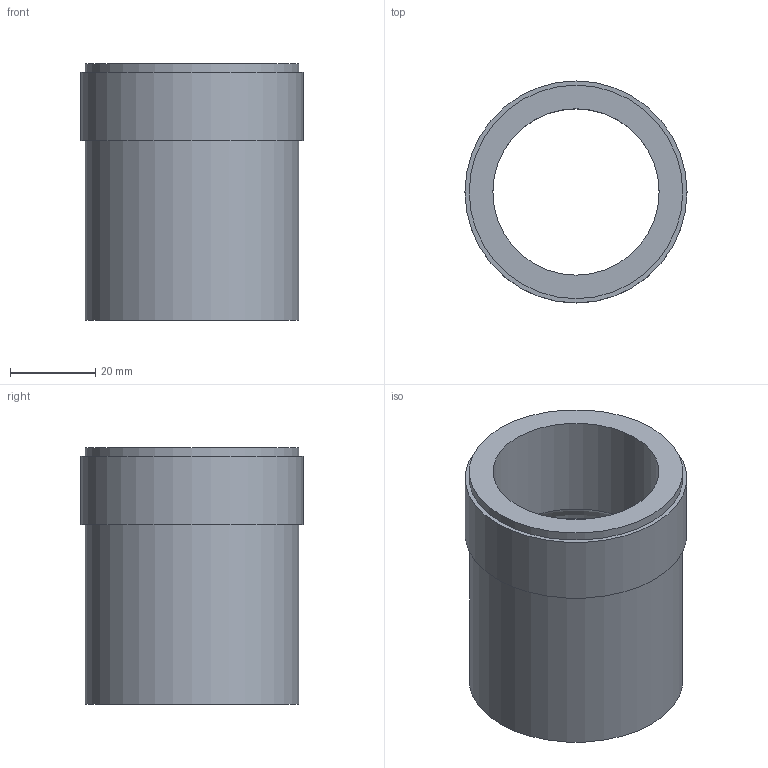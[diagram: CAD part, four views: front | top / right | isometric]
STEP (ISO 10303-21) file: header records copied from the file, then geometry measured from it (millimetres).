
FILE_DESCRIPTION(/* description */ (''),/* implementation_level */ '2;1');
FILE_NAME(/* name */ 'Z:\Geberit\Export\NewStep\361722.stp',/* time_stamp */ '2014-04-01T21:07:12+02:00',/* author */ ('nelson'),/* organization */ (''),/* preprocessor_version */ 'ST-DEVELOPER v15.2',/* originating_system */ 'Autodesk Inventor 2014',/* authorisation */ '');
FILE_SCHEMA (('AUTOMOTIVE_DESIGN { 1 0 10303 214 3 1 1 }'));
Length unit declared in the file: millimetre
Products named in the file (1): 361722
Bounding box: 52 x 52 x 60 mm (x, y, z)
Volume: 37638.8 mm3; surface area: 19063.4 mm2
Topology: 1 solids, 1 shells, 11 faces, 21 edges, 14 vertices
Faces by surface type: cylinder 5, plane 4, torus 1, cone 1
Full cylindrical faces by diameter (mm): 38.952 x1, 44 x1, 50 x2, 52 x1
Entity records: 259 total; most frequent: DIRECTION 46, CARTESIAN_POINT 34, AXIS2_PLACEMENT_3D 23, EDGE_LOOP 22, ORIENTED_EDGE 22, FACE_BOUND 14, CIRCLE 11, VERTEX_POINT 11
